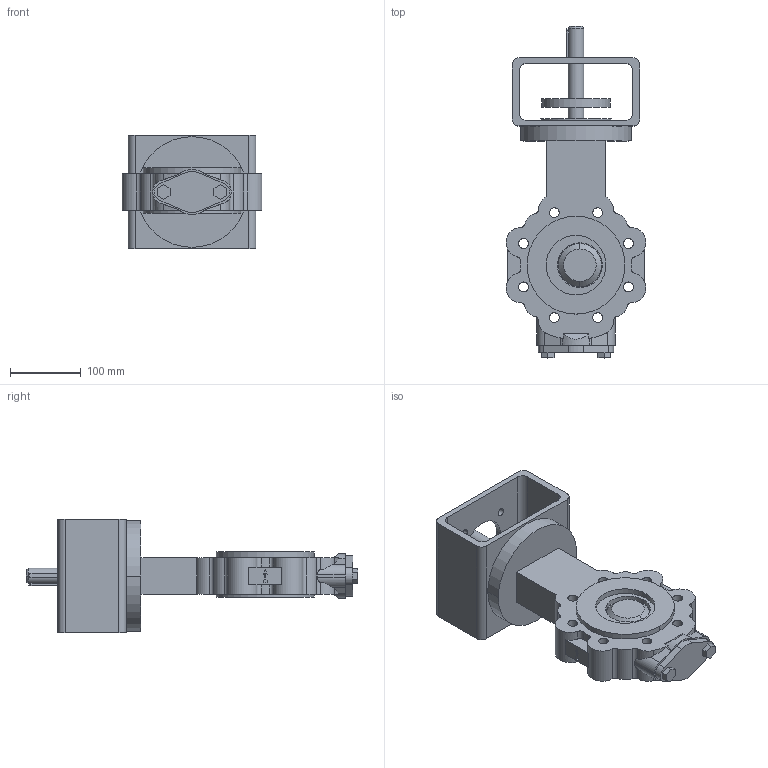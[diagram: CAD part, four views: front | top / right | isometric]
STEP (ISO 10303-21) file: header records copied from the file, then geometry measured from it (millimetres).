
FILE_DESCRIPTION( ( '' ), '1' );
FILE_NAME( 'F:/DE-SHS/TB/OR/04-Sonstiges/daten/files_3d/018_ZETRIX-PN10_freiesWellende/c000006379.stp', '2016-09-01T11:05:39', ( '' ), ( '' ), ' ', ' ', ' ' );
FILE_SCHEMA( ( 'CONFIG_CONTROL_DESIGN' ) );
Length unit declared in the file: millimetre
Products named in the file (1): 1
Bounding box: 197.19 x 467.8 x 160 mm (x, y, z)
Volume: 3166128.6 mm3; surface area: 361785.9 mm2
Topology: 1 solids, 1 shells, 237 faces, 650 edges, 434 vertices
Faces by surface type: cylinder 141, plane 92, cone 4
Entity records: 8242 total; most frequent: CARTESIAN_POINT 1872, DIRECTION 1380, ORIENTED_EDGE 1300, EDGE_CURVE 650, AXIS2_PLACEMENT_3D 522, VERTEX_POINT 434, LINE 336, VECTOR 336
